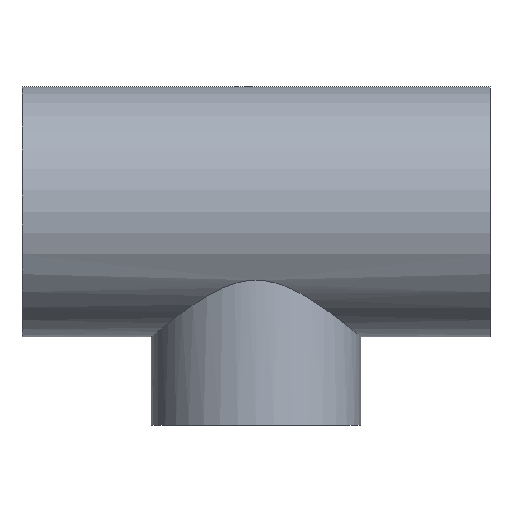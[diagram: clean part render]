
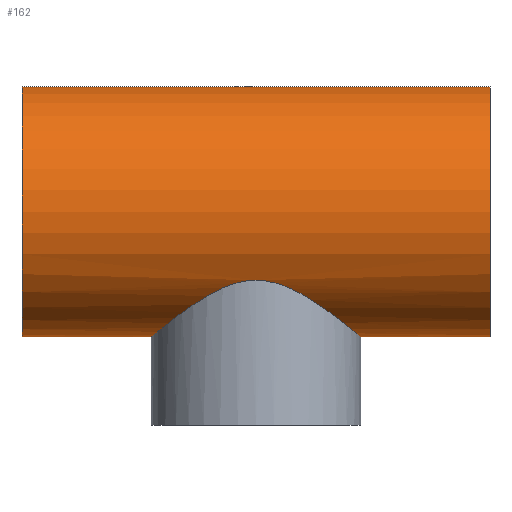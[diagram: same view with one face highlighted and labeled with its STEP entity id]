
A CAD part, top view. The second image highlights one B-rep face of the part: STEP entity #162.
In plain terms, the highlighted cylindrical face has radius 30.5 mm (diameter 61 mm), a full revolution.
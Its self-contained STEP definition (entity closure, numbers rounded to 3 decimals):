
#16=B_SPLINE_CURVE_WITH_KNOTS('',3,(#336,#337,#338,#339,#340,#341,#342,
#343,#344,#345,#346,#347,#348,#349,#350,#351,#352,#353,#354,#355,#356,#357,
#358,#359,#360,#361,#362,#363,#364,#365,#366,#367,#368,#369,#370,#371,#372,
#373,#374,#375,#376,#377,#378,#379,#380,#381,#382,#383,#384,#385,#386,#387,
#388,#389,#390,#391,#392,#393,#394,#395,#396,#397,#398,#399,#400,#401),
 .UNSPECIFIED.,.T.,.F.,(4,2,2,2,2,2,2,2,2,2,2,2,2,2,2,2,2,2,2,2,2,2,2,2,
2,2,2,2,2,2,2,2,4),(0.,0.532,1.064,1.595,
2.127,2.637,3.147,3.656,4.166,
4.676,5.185,5.695,6.205,6.737,
7.268,7.8,8.332,8.864,9.396,
9.927,10.459,10.969,11.479,11.988,
12.498,13.008,13.517,14.027,14.537,
15.069,15.601,16.132,16.664),
 .UNSPECIFIED.);
#32=FACE_BOUND('',#69,.T.);
#33=FACE_BOUND('',#70,.T.);
#46=FACE_OUTER_BOUND('',#68,.T.);
#68=EDGE_LOOP('',(#136));
#69=EDGE_LOOP('',(#137));
#70=EDGE_LOOP('',(#138));
#88=CIRCLE('',#187,30.5);
#89=CIRCLE('',#188,30.5);
#101=VERTEX_POINT('',#333);
#102=VERTEX_POINT('',#335);
#103=VERTEX_POINT('',#402);
#115=EDGE_CURVE('',#101,#101,#88,.T.);
#116=EDGE_CURVE('',#102,#102,#16,.T.);
#117=EDGE_CURVE('',#103,#103,#89,.T.);
#136=ORIENTED_EDGE('',*,*,#115,.F.);
#137=ORIENTED_EDGE('',*,*,#116,.T.);
#138=ORIENTED_EDGE('',*,*,#117,.F.);
#152=CYLINDRICAL_SURFACE('',#186,30.5);
#162=ADVANCED_FACE('',(#46,#32,#33),#152,.T.);
#186=AXIS2_PLACEMENT_3D('',#332,#230,#231);
#187=AXIS2_PLACEMENT_3D('',#334,#232,#233);
#188=AXIS2_PLACEMENT_3D('',#403,#234,#235);
#230=DIRECTION('center_axis',(1.,0.,0.));
#231=DIRECTION('ref_axis',(0.,-1.,0.));
#232=DIRECTION('center_axis',(-1.,0.,0.));
#233=DIRECTION('ref_axis',(0.,-1.,0.));
#234=DIRECTION('center_axis',(1.,0.,0.));
#235=DIRECTION('ref_axis',(0.,-1.,0.));
#332=CARTESIAN_POINT('Origin',(0.,0.,0.));
#333=CARTESIAN_POINT('',(-57.,30.5,0.));
#334=CARTESIAN_POINT('Origin',(-57.,0.,0.));
#335=CARTESIAN_POINT('',(0.,-16.733,25.5));
#336=CARTESIAN_POINT('Ctrl Pts',(0.,-16.733,
25.5));
#337=CARTESIAN_POINT('Ctrl Pts',(1.773,-16.733,25.5));
#338=CARTESIAN_POINT('Ctrl Pts',(3.507,-17.022,25.315));
#339=CARTESIAN_POINT('Ctrl Pts',(6.851,-18.011,24.622));
#340=CARTESIAN_POINT('Ctrl Pts',(8.461,-18.705,24.113));
#341=CARTESIAN_POINT('Ctrl Pts',(11.523,-20.275,22.809));
#342=CARTESIAN_POINT('Ctrl Pts',(12.976,-21.15,22.012));
#343=CARTESIAN_POINT('Ctrl Pts',(15.674,-22.904,20.18));
#344=CARTESIAN_POINT('Ctrl Pts',(16.918,-23.784,19.144));
#345=CARTESIAN_POINT('Ctrl Pts',(19.098,-25.381,16.965));
#346=CARTESIAN_POINT('Ctrl Pts',(20.122,-26.164,15.749));
#347=CARTESIAN_POINT('Ctrl Pts',(21.962,-27.604,13.061));
#348=CARTESIAN_POINT('Ctrl Pts',(22.778,-28.261,11.589));
#349=CARTESIAN_POINT('Ctrl Pts',(24.114,-29.348,8.465));
#350=CARTESIAN_POINT('Ctrl Pts',(24.634,-29.779,6.811));
#351=CARTESIAN_POINT('Ctrl Pts',(25.328,-30.355,3.428));
#352=CARTESIAN_POINT('Ctrl Pts',(25.5,-30.5,1.699));
#353=CARTESIAN_POINT('Ctrl Pts',(25.5,-30.5,-1.699));
#354=CARTESIAN_POINT('Ctrl Pts',(25.328,-30.355,-3.428));
#355=CARTESIAN_POINT('Ctrl Pts',(24.634,-29.779,-6.811));
#356=CARTESIAN_POINT('Ctrl Pts',(24.114,-29.348,-8.465));
#357=CARTESIAN_POINT('Ctrl Pts',(22.778,-28.261,-11.589));
#358=CARTESIAN_POINT('Ctrl Pts',(21.962,-27.604,-13.061));
#359=CARTESIAN_POINT('Ctrl Pts',(20.122,-26.164,-15.749));
#360=CARTESIAN_POINT('Ctrl Pts',(19.098,-25.381,-16.965));
#361=CARTESIAN_POINT('Ctrl Pts',(16.918,-23.784,-19.144));
#362=CARTESIAN_POINT('Ctrl Pts',(15.674,-22.904,-20.18));
#363=CARTESIAN_POINT('Ctrl Pts',(12.976,-21.15,-22.012));
#364=CARTESIAN_POINT('Ctrl Pts',(11.523,-20.275,-22.809));
#365=CARTESIAN_POINT('Ctrl Pts',(8.461,-18.705,-24.113));
#366=CARTESIAN_POINT('Ctrl Pts',(6.851,-18.011,-24.622));
#367=CARTESIAN_POINT('Ctrl Pts',(3.507,-17.022,-25.315));
#368=CARTESIAN_POINT('Ctrl Pts',(1.773,-16.733,-25.5));
#369=CARTESIAN_POINT('Ctrl Pts',(-1.773,-16.733,-25.5));
#370=CARTESIAN_POINT('Ctrl Pts',(-3.507,-17.022,-25.315));
#371=CARTESIAN_POINT('Ctrl Pts',(-6.851,-18.011,-24.622));
#372=CARTESIAN_POINT('Ctrl Pts',(-8.461,-18.705,-24.113));
#373=CARTESIAN_POINT('Ctrl Pts',(-11.523,-20.275,-22.809));
#374=CARTESIAN_POINT('Ctrl Pts',(-12.976,-21.15,-22.012));
#375=CARTESIAN_POINT('Ctrl Pts',(-15.674,-22.904,-20.18));
#376=CARTESIAN_POINT('Ctrl Pts',(-16.918,-23.784,-19.144));
#377=CARTESIAN_POINT('Ctrl Pts',(-19.098,-25.381,-16.965));
#378=CARTESIAN_POINT('Ctrl Pts',(-20.122,-26.164,-15.749));
#379=CARTESIAN_POINT('Ctrl Pts',(-21.962,-27.604,-13.061));
#380=CARTESIAN_POINT('Ctrl Pts',(-22.778,-28.261,-11.589));
#381=CARTESIAN_POINT('Ctrl Pts',(-24.114,-29.348,-8.465));
#382=CARTESIAN_POINT('Ctrl Pts',(-24.634,-29.779,-6.811));
#383=CARTESIAN_POINT('Ctrl Pts',(-25.328,-30.355,-3.428));
#384=CARTESIAN_POINT('Ctrl Pts',(-25.5,-30.5,-1.699));
#385=CARTESIAN_POINT('Ctrl Pts',(-25.5,-30.5,1.699));
#386=CARTESIAN_POINT('Ctrl Pts',(-25.328,-30.355,3.428));
#387=CARTESIAN_POINT('Ctrl Pts',(-24.634,-29.779,6.811));
#388=CARTESIAN_POINT('Ctrl Pts',(-24.114,-29.348,8.465));
#389=CARTESIAN_POINT('Ctrl Pts',(-22.778,-28.261,11.589));
#390=CARTESIAN_POINT('Ctrl Pts',(-21.962,-27.604,13.061));
#391=CARTESIAN_POINT('Ctrl Pts',(-20.122,-26.164,15.749));
#392=CARTESIAN_POINT('Ctrl Pts',(-19.098,-25.381,16.965));
#393=CARTESIAN_POINT('Ctrl Pts',(-16.918,-23.784,19.144));
#394=CARTESIAN_POINT('Ctrl Pts',(-15.674,-22.904,20.18));
#395=CARTESIAN_POINT('Ctrl Pts',(-12.976,-21.15,22.012));
#396=CARTESIAN_POINT('Ctrl Pts',(-11.523,-20.275,22.809));
#397=CARTESIAN_POINT('Ctrl Pts',(-8.461,-18.705,24.113));
#398=CARTESIAN_POINT('Ctrl Pts',(-6.851,-18.011,24.622));
#399=CARTESIAN_POINT('Ctrl Pts',(-3.507,-17.022,25.315));
#400=CARTESIAN_POINT('Ctrl Pts',(-1.773,-16.733,25.5));
#401=CARTESIAN_POINT('Ctrl Pts',(0.,-16.733,
25.5));
#402=CARTESIAN_POINT('',(57.,30.5,0.));
#403=CARTESIAN_POINT('Origin',(57.,0.,0.));
